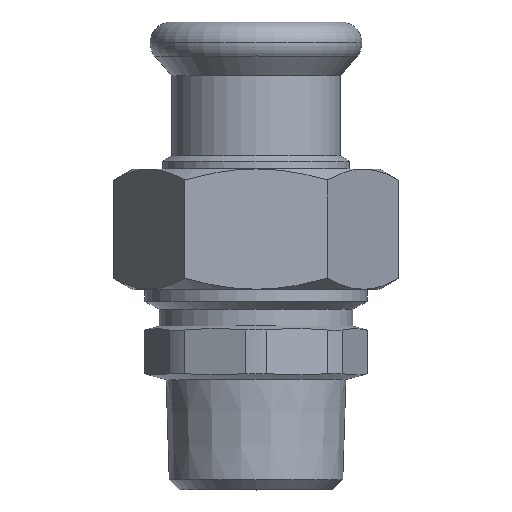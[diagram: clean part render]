
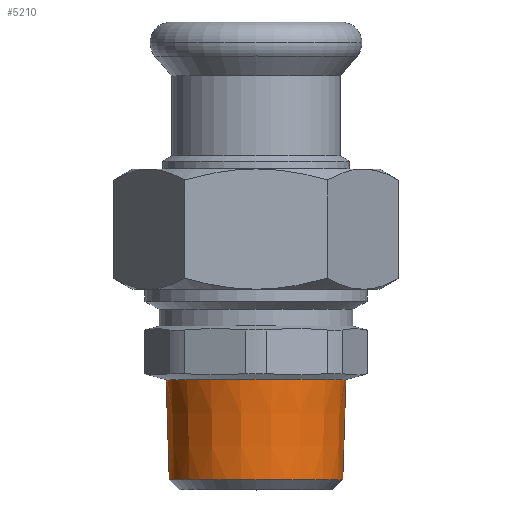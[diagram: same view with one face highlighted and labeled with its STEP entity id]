
A CAD part, top view. The second image highlights one B-rep face of the part: STEP entity #5210.
In plain terms, the highlighted conical face has half-angle 1.79 degrees and reference radius 13.453 mm.
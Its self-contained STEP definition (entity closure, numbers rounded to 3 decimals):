
#4800=CARTESIAN_POINT('',(-319.291,11.435,0.));
#4810=DIRECTION('',(0.,1.,0.));
#4820=DIRECTION('',(1.,0.,0.));
#4830=AXIS2_PLACEMENT_3D('',#4800,#4810,#4820);
#4840=CONICAL_SURFACE('',#4830,13.453,0.031);
#4850=CARTESIAN_POINT('',(-332.744,11.435,
0.));
#4860=DIRECTION('',(-0.031,1.,
0.));
#4870=VECTOR('',#4860,430.71);
#4880=LINE('',#4850,#4870);
#4890=CARTESIAN_POINT('',(-332.275,-3.565,
0.));
#4900=VERTEX_POINT('',#4890);
#4910=CARTESIAN_POINT('',(-332.744,11.435,
0.));
#4920=VERTEX_POINT('',#4910);
#4930=EDGE_CURVE('',#4900,#4920,#4880,.T.);
#4940=ORIENTED_EDGE('',*,*,#4930,.F.);
#4950=CARTESIAN_POINT('',(-319.291,11.435,0.));
#4960=DIRECTION('',(0.,1.,0.));
#4970=DIRECTION('',(1.,0.,0.));
#4980=AXIS2_PLACEMENT_3D('',#4950,#4960,#4970);
#4990=CIRCLE('',#4980,13.453);
#5000=CARTESIAN_POINT('',(-305.838,11.435,0.));
#5010=VERTEX_POINT('',#5000);
#5020=EDGE_CURVE('',#4920,#5010,#4990,.T.);
#5030=ORIENTED_EDGE('',*,*,#5020,.F.);
#5040=CARTESIAN_POINT('',(-305.838,11.435,0.));
#5050=DIRECTION('',(0.031,1.,0.));
#5060=VECTOR('',#5050,430.71);
#5070=LINE('',#5040,#5060);
#5080=CARTESIAN_POINT('',(-306.307,-3.565,0.));
#5090=VERTEX_POINT('',#5080);
#5100=EDGE_CURVE('',#5090,#5010,#5070,.T.);
#5110=ORIENTED_EDGE('',*,*,#5100,.T.);
#5120=CARTESIAN_POINT('',(-319.291,-3.565,0.));
#5130=DIRECTION('',(0.,1.,0.));
#5140=DIRECTION('',(1.,0.,0.));
#5150=AXIS2_PLACEMENT_3D('',#5120,#5130,#5140);
#5160=CIRCLE('',#5150,12.984);
#5170=EDGE_CURVE('',#4900,#5090,#5160,.T.);
#5180=ORIENTED_EDGE('',*,*,#5170,.T.);
#5190=EDGE_LOOP('',(#5180,#5110,#5030,#4940));
#5200=FACE_OUTER_BOUND('',#5190,.T.);
#5210=ADVANCED_FACE('',(#5200),#4840,.T.);
